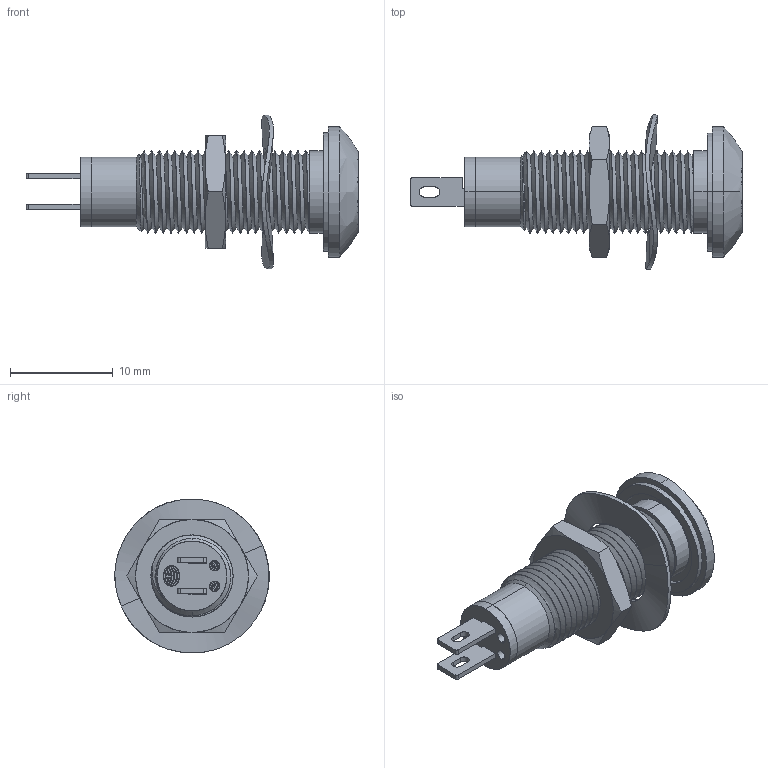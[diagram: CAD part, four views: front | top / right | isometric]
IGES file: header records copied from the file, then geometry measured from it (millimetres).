
Start section: SolidWorks IGES file using analytic representation for surfaces
Global section: file name: C:\Users\paulr\Desktop\537series.IGS; native system: SolidWorks 2013; preprocessor: SolidWorks 2013; author: paulr; date: 131009.111724; units: millimetre
Bounding box: 32.35 x 15.03 x 14.99 mm (x, y, z)
Surface area: 1915.4 mm2 (no closed solid volume)
Topology: 0 solids, 0 shells, 244 faces, 3585 edges, 3585 vertices
Faces by surface type: revolution 123, bspline 121
